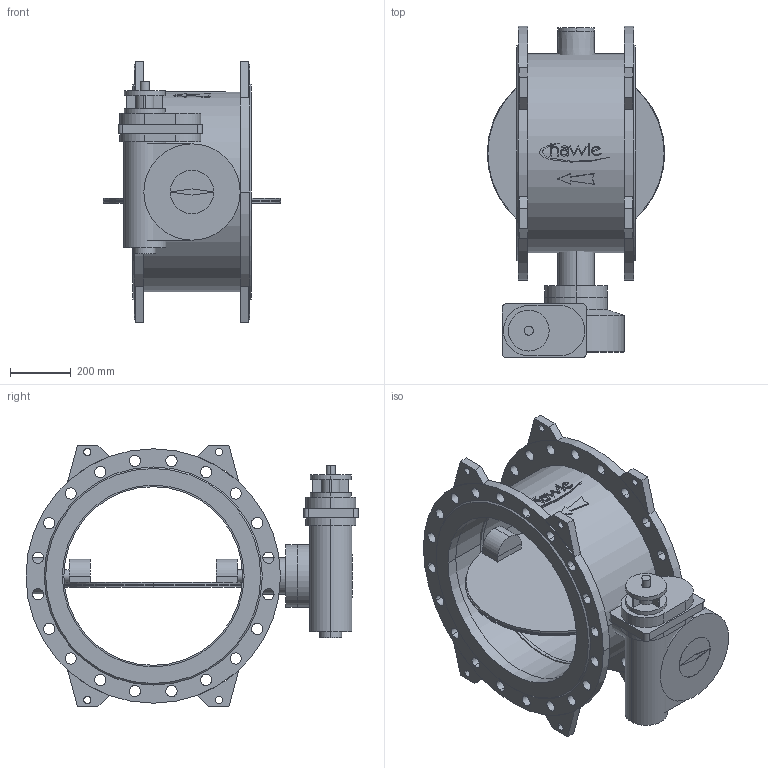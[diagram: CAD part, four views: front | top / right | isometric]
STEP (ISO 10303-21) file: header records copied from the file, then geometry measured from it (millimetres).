
FILE_DESCRIPTION(('STEP AP214'),'1');
FILE_NAME('S:/EK/USER/CAT6/3DHomepage_27-04-2012/neu_08-01-2013/9881K/9881K_PN16_DN600.STP','2013-03-11T15:34:41',(' '),(' '),'Spatial InterOp 3D',' ',' ');
FILE_SCHEMA(('automotive_design'));
Length unit declared in the file: millimetre
Products named in the file (51): 3D-Objekt
Bounding box: 586 x 1096 x 864 mm (x, y, z)
Volume: 73791578.1 mm3; surface area: 5501809.2 mm2
Topology: 51 solids, 51 shells, 429 faces, 972 edges, 648 vertices
Faces by surface type: plane 212, cylinder 209, cone 8
Entity records: 17003 total; most frequent: DIRECTION 2366, CARTESIAN_POINT 2100, ORIENTED_EDGE 1944, EDGE_CURVE 972, AXIS2_PLACEMENT_3D 914, VERTEX_POINT 648, EDGE_LOOP 540, LINE 538
